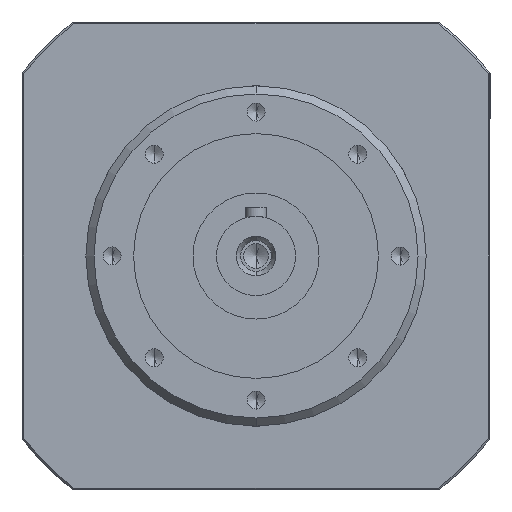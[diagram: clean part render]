
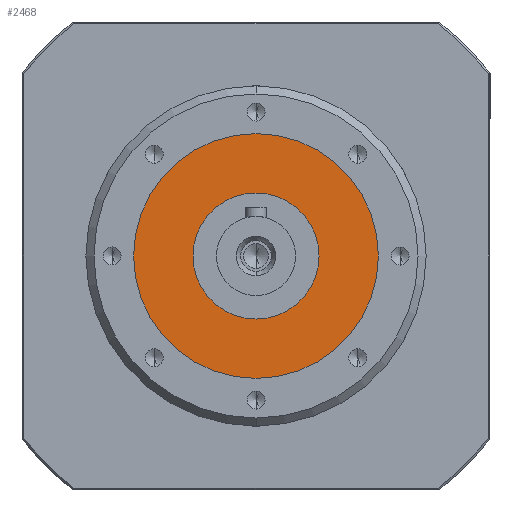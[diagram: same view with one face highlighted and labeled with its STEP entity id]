
A CAD part, left-side view. The second image highlights one B-rep face of the part: STEP entity #2468.
In plain terms, the highlighted planar face has unit normal (-1, 0, 0) as drawn and (0, 1, 0) by its records, which use the part's own axes.
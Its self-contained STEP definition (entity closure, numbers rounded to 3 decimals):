
#150 = CARTESIAN_POINT ( 'NONE',  ( 0., 56., -17.5 ) ) ;
#164 = CARTESIAN_POINT ( 'NONE',  ( 0., 56., 17.5 ) ) ;
#971 = AXIS2_PLACEMENT_3D ( 'NONE', #1001, #1000, #993 ) ;
#993 = DIRECTION ( 'NONE',  ( 0., 0., 1. ) ) ;
#995 = CIRCLE ( 'NONE', #971, 17.5 ) ;
#1000 = DIRECTION ( 'NONE',  ( 0., 1., 0. ) ) ;
#1001 = CARTESIAN_POINT ( 'NONE',  ( 0., 56., 0. ) ) ;
#1658 = VERTEX_POINT ( 'NONE', #5660 ) ;
#1663 = EDGE_CURVE ( 'NONE', #1658, #1665, #5453, .T. ) ;
#1665 = VERTEX_POINT ( 'NONE', #5653 ) ;
#2447 = ORIENTED_EDGE ( 'NONE', *, *, #1663, .T. ) ;
#2456 = EDGE_CURVE ( 'NONE', #3280, #3279, #5241, .T. ) ;
#2468 = ADVANCED_FACE ( 'NONE', ( #5161, #5167 ), #5166, .T. ) ;
#2574 = ORIENTED_EDGE ( 'NONE', *, *, #2596, .T. ) ;
#2578 = ORIENTED_EDGE ( 'NONE', *, *, #2456, .F. ) ;
#2592 = EDGE_LOOP ( 'NONE', ( #2593, #2578 ) ) ;
#2593 = ORIENTED_EDGE ( 'NONE', *, *, #3256, .F. ) ;
#2596 = EDGE_CURVE ( 'NONE', #1665, #1658, #8609, .T. ) ;
#2598 = EDGE_LOOP ( 'NONE', ( #2447, #2574 ) ) ;
#3256 = EDGE_CURVE ( 'NONE', #3279, #3280, #995, .T. ) ;
#3279 = VERTEX_POINT ( 'NONE', #164 ) ;
#3280 = VERTEX_POINT ( 'NONE', #150 ) ;
#5161 = FACE_OUTER_BOUND ( 'NONE', #2598, .T. ) ;
#5162 = AXIS2_PLACEMENT_3D ( 'NONE', #5164, #5203, #5202 ) ;
#5164 = CARTESIAN_POINT ( 'NONE',  ( 0., 56., 0. ) ) ;
#5166 = PLANE ( 'NONE',  #5162 ) ;
#5167 = FACE_BOUND ( 'NONE', #2592, .T. ) ;
#5202 = DIRECTION ( 'NONE',  ( 0., 0., 1. ) ) ;
#5203 = DIRECTION ( 'NONE',  ( 0., 1., 0. ) ) ;
#5241 = CIRCLE ( 'NONE', #5261, 17.5 ) ;
#5258 = DIRECTION ( 'NONE',  ( 0., 0., 1. ) ) ;
#5259 = DIRECTION ( 'NONE',  ( 0., 1., 0. ) ) ;
#5260 = CARTESIAN_POINT ( 'NONE',  ( 0., 56., 0. ) ) ;
#5261 = AXIS2_PLACEMENT_3D ( 'NONE', #5260, #5259, #5258 ) ;
#5449 = CARTESIAN_POINT ( 'NONE',  ( 0., 56., 0. ) ) ;
#5453 = CIRCLE ( 'NONE', #5456, 34. ) ;
#5455 = DIRECTION ( 'NONE',  ( 0., 0., 1. ) ) ;
#5456 = AXIS2_PLACEMENT_3D ( 'NONE', #5449, #5457, #5455 ) ;
#5457 = DIRECTION ( 'NONE',  ( 0., 1., 0. ) ) ;
#5653 = CARTESIAN_POINT ( 'NONE',  ( 0., 56., -34. ) ) ;
#5660 = CARTESIAN_POINT ( 'NONE',  ( 0., 56., 34. ) ) ;
#8596 = CARTESIAN_POINT ( 'NONE',  ( 0., 56., 0. ) ) ;
#8609 = CIRCLE ( 'NONE', #8618, 34. ) ;
#8616 = DIRECTION ( 'NONE',  ( 0., 0., 1. ) ) ;
#8617 = DIRECTION ( 'NONE',  ( 0., 1., 0. ) ) ;
#8618 = AXIS2_PLACEMENT_3D ( 'NONE', #8596, #8617, #8616 ) ;
